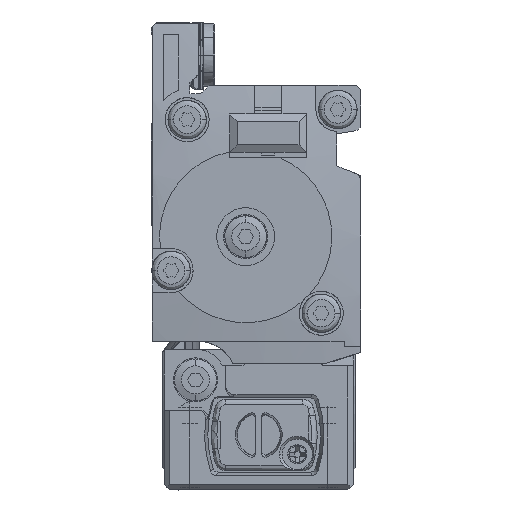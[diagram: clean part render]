
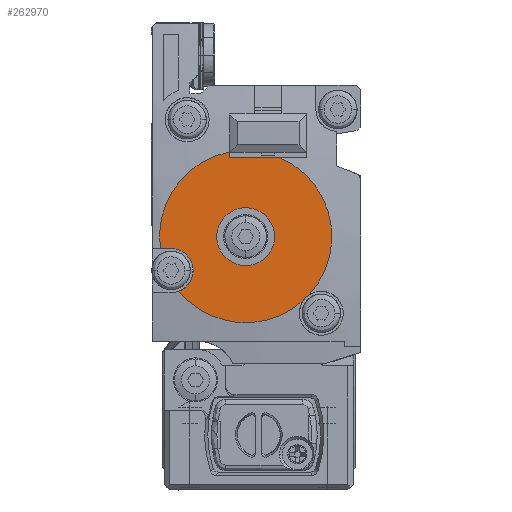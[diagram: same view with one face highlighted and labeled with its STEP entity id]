
A CAD part, left-side view. The second image highlights one B-rep face of the part: STEP entity #262970.
In plain terms, the highlighted planar face has unit normal (-1, 0, 0) as drawn and (0, 0, -1) by its records, which use the part's own axes.
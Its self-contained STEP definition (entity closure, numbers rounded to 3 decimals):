
#224410=CARTESIAN_POINT('',(-103.732,235.923,
-10.5));
#224420=VERTEX_POINT('',#224410);
#224450=CARTESIAN_POINT('',(-105.972,239.237,
-10.5));
#224460=DIRECTION('',(0.,0.,-1.));
#224470=DIRECTION('',(-1.,0.,0.));
#224480=AXIS2_PLACEMENT_3D('',#224450,#224460,#224470);
#224490=CIRCLE('',#224480,4.);
#224500=CARTESIAN_POINT('',(-102.627,237.044,
-10.5));
#224510=VERTEX_POINT('',#224500);
#224520=EDGE_CURVE('',#224510,#224420,#224490,.T.);
#232770=CARTESIAN_POINT('',(-94.188,211.959,
-10.5));
#232780=VERTEX_POINT('',#232770);
#232810=CARTESIAN_POINT('',(-98.188,211.959,
-10.5));
#232820=DIRECTION('',(0.,0.,-1.));
#232830=DIRECTION('',(-1.,0.,0.));
#232840=AXIS2_PLACEMENT_3D('',#232810,#232820,#232830);
#232850=CIRCLE('',#232840,4.);
#232860=CARTESIAN_POINT('',(-101.931,213.372,
-10.5));
#232870=VERTEX_POINT('',#232860);
#232880=EDGE_CURVE('',#232870,#232780,#232850,.T.);
#262360=CARTESIAN_POINT('',(-84.704,225.495,
-10.5));
#262370=DIRECTION('',(0.,0.,-1.));
#262380=DIRECTION('',(1.,0.,0.));
#262390=AXIS2_PLACEMENT_3D('',#262360,#262370,#262380);
#262400=PLANE('',#262390);
#262410=CARTESIAN_POINT('',(-92.05,225.495,
-10.5));
#262420=DIRECTION('',(0.,0.,-1.));
#262430=DIRECTION('',(-1.,0.,0.));
#262440=AXIS2_PLACEMENT_3D('',#262410,#262420,#262430);
#262450=CIRCLE('',#262440,5.25);
#262460=CARTESIAN_POINT('',(-97.3,225.495,
-10.5));
#262470=VERTEX_POINT('',#262460);
#262480=CARTESIAN_POINT('',(-86.8,225.495,
-10.5));
#262490=VERTEX_POINT('',#262480);
#262500=EDGE_CURVE('',#262470,#262490,#262450,.T.);
#262510=ORIENTED_EDGE('',*,*,#262500,.F.);
#262520=EDGE_CURVE('',#262490,#262470,#262450,.T.);
#262530=ORIENTED_EDGE('',*,*,#262520,.F.);
#262540=EDGE_LOOP('',(#262530,#262510));
#262550=FACE_BOUND('',#262540,.T.);
#262560=ORIENTED_EDGE('',*,*,#224520,.F.);
#262570=CARTESIAN_POINT('',(-92.051,225.509,
-10.5));
#262580=DIRECTION('',(0.,0.,-1.));
#262590=DIRECTION('',(1.,0.,0.));
#262600=AXIS2_PLACEMENT_3D('',#262570,#262580,#262590);
#262610=CIRCLE('',#262600,15.65);
#262620=EDGE_CURVE('',#232870,#224420,#262610,.T.);
#262630=ORIENTED_EDGE('',*,*,#262620,.T.);
#262640=ORIENTED_EDGE('',*,*,#232880,.F.);
#262650=CARTESIAN_POINT('',(-94.188,225.509,
-10.5));
#262660=DIRECTION('',(0.,1.,0.));
#262670=VECTOR('',#262660,1.);
#262680=LINE('',#262650,#262670);
#262690=CARTESIAN_POINT('',(-94.188,210.006,
-10.5));
#262700=VERTEX_POINT('',#262690);
#262710=EDGE_CURVE('',#262700,#232780,#262680,.T.);
#262720=ORIENTED_EDGE('',*,*,#262710,.T.);
#262730=CARTESIAN_POINT('',(-76.678,222.58,
-10.5));
#262740=VERTEX_POINT('',#262730);
#262750=EDGE_CURVE('',#262740,#262700,#262610,.T.);
#262760=ORIENTED_EDGE('',*,*,#262750,.T.);
#262770=CARTESIAN_POINT('',(-137.342,222.58,
-10.5));
#262780=DIRECTION('',(-1.,0.,0.));
#262790=VECTOR('',#262780,1.);
#262800=LINE('',#262770,#262790);
#262810=CARTESIAN_POINT('',(-77.669,222.58,
-10.5));
#262820=VERTEX_POINT('',#262810);
#262830=EDGE_CURVE('',#262740,#262820,#262800,.T.);
#262840=ORIENTED_EDGE('',*,*,#262830,.F.);
#262850=CARTESIAN_POINT('',(-77.669,225.509,
-10.5));
#262860=DIRECTION('',(0.,-1.,0.));
#262870=VECTOR('',#262860,1.);
#262880=LINE('',#262850,#262870);
#262890=CARTESIAN_POINT('',(-77.669,231.679,
-10.5));
#262900=VERTEX_POINT('',#262890);
#262910=EDGE_CURVE('',#262900,#262820,#262880,.T.);
#262920=ORIENTED_EDGE('',*,*,#262910,.T.);
#262930=EDGE_CURVE('',#224510,#262900,#262610,.T.);
#262940=ORIENTED_EDGE('',*,*,#262930,.T.);
#262950=EDGE_LOOP('',(#262940,#262920,#262840,#262760,#262720,#262640,
#262630,#262560));
#262960=FACE_OUTER_BOUND('',#262950,.T.);
#262970=ADVANCED_FACE('',(#262550,#262960),#262400,.T.);
